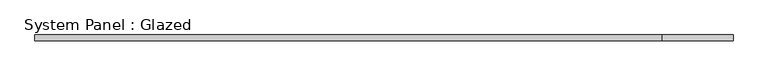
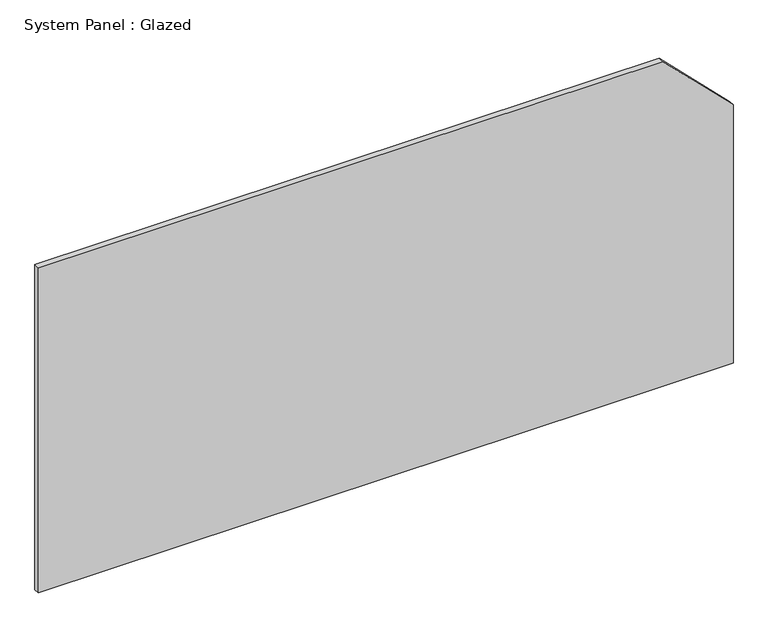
"""IFC4 building model written with IfcOpenShell, lengths in millimetres: plate geometry, System Panel : Glazed."""

from ifc_helpers import new_model, si_unit, frame, origin, place, context, project, spatial, polyline, outline, extrude, source, transform, mapped, element, save


def system_panel_glazed_17311000(model_context):
    return source(origin(), model_context, "Body", "SweptSolid", [
        extrude(outline(polyline([(0.0, -1476.3750001), (0.0, 1476.3750001), (1161.1474388, 1476.3750001), (1460.5, 1177.0224389), (1460.5, -1476.3750001), (0.0, -1476.3750001)])), frame((0.0, 19.05, 0.0), z_axis=(0.0, 1.0, 0.0), x_axis=(0.0, 0.0, 1.0)), (0.0, 0.0, 1.0), 25.4),
    ])


if __name__ == "__main__":
    model = new_model("IFC4")
    model_context = context("Model", 3, world=origin())
    ifc_project = project(units=[si_unit("LENGTHUNIT", "METRE", prefix="MILLI")], contexts=[model_context])
    site = spatial("IfcSite", under=ifc_project)
    building = spatial("IfcBuilding", under=site)
    placement = place(None, origin())
    system_panel_glazed_shape = system_panel_glazed_17311000(model_context)
    element("IfcPlate", 1, ObjectType="System Panel : Glazed", at=placement, inside=building, context=model_context, shape_type="MappedRepresentation", body=[
        mapped(system_panel_glazed_shape, transform((0.0, 0.0, 0.0), x_axis=(1.0, 0.0, 0.0), y_axis=(0.0, 1.0, 0.0), z_axis=(0.0, 0.0, 1.0))),
    ])
    save(model, "model.ifc")
